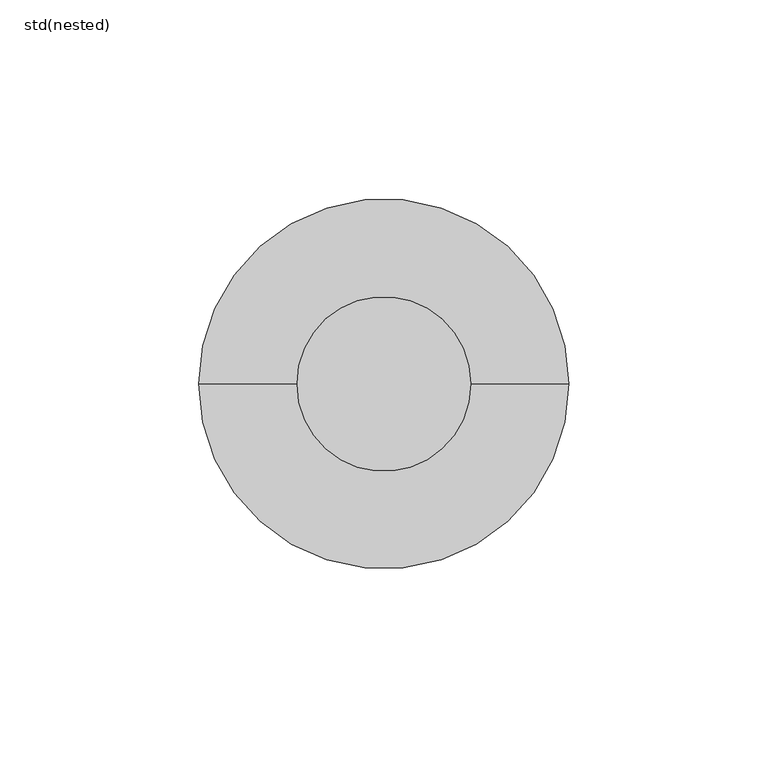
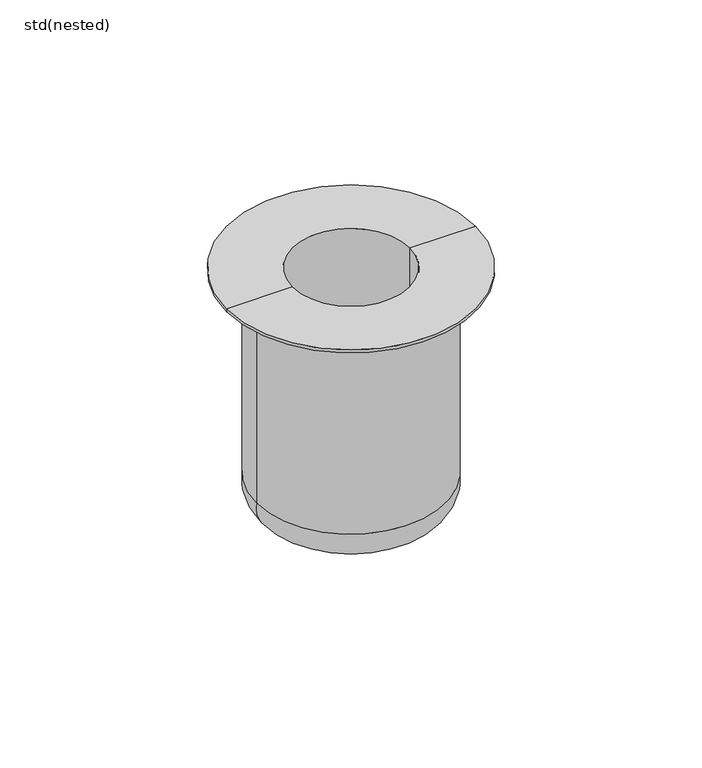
"""IFC4 building model written with IfcOpenShell, lengths in millimetres: sanitary terminal geometry, ZZZ_do_not_use_PF_UN_foul air trap_ACO : std(nested)."""

from ifc_helpers import new_model, si_unit, point, frame, origin, origin_with_axes, place, context, project, spatial, polyline, circle_curve, ellipse_curve, trimmed, source, transform, mapped, element, save
from ifc_brep_helpers import plane_surface, cylinder_surface, revolved_surface, advanced_brep


def std_nested_ef57f552(model_context):
    return source(origin(), model_context, "Body", "AdvancedBrep", [
        advanced_brep(
        [(46.5, 0.0, 0.0), (-46.5, 0.0, 0.0), (-21.9735909, 0.0, 0.0), (21.9735909, 0.0, 0.0), (-30.1394353, 0.0, -92.0), (30.1394353, 0.0, -92.0), (0.0, 0.0, -92.0), (-35.2620423, 0.0, -7.22682), (35.2620423, 0.0, -7.22682), (35.2620423, 0.0, -80.5692755), (-35.2620423, 0.0, -80.5692755), (-32.5551826, 0.0, -7.22682), (32.5551826, 0.0, -7.22682), (-32.5551826, 0.0, -5.2434154), (32.5551826, 0.0, -5.2434154), (-21.9735909, 0.0, -80.5692755), (21.9735909, 0.0, -80.5692755), (-46.5, 0.0, -1.1869593), (46.5, 0.0, -1.1869593)],
        [
            (0, 1, circle_curve(origin_with_axes(), 46.5)),
            (1, 2),
            (2, 3, circle_curve(frame((0.0, 0.0, 0.0), z_axis=(0.0, 0.0, -1.0), x_axis=(1.0, 0.0, 0.0)), 21.9735909)),
            (3, 0),
            (1, 0, circle_curve(origin_with_axes(), 46.5)),
            (3, 2, circle_curve(frame((0.0, 0.0, 0.0), z_axis=(0.0, 0.0, -1.0), x_axis=(1.0, 0.0, 0.0)), 21.9735909)),
            (4, 5, circle_curve(frame((0.0, 0.0, -92.0), z_axis=(0.0, 0.0, -1.0), x_axis=(1.0, 0.0, 0.0)), 30.1394353)),
            (5, 6),
            (6, 4),
            (5, 4, circle_curve(frame((0.0, 0.0, -92.0), z_axis=(0.0, 0.0, -1.0), x_axis=(1.0, 0.0, 0.0)), 30.1394353)),
            (7, 8, circle_curve(frame((0.0, 0.0, -7.22682), z_axis=(0.0, 0.0, -1.0), x_axis=(1.0, 0.0, 0.0)), 35.2620423)),
            (8, 9),
            (9, 10, circle_curve(frame((0.0, 0.0, -80.5692755), z_axis=(0.0, 0.0, 1.0), x_axis=(1.0, 0.0, 0.0)), 35.2620423)),
            (10, 7),
            (8, 7, circle_curve(frame((0.0, 0.0, -7.22682), z_axis=(0.0, 0.0, -1.0), x_axis=(1.0, 0.0, 0.0)), 35.2620423)),
            (10, 9, circle_curve(frame((0.0, 0.0, -80.5692755), z_axis=(0.0, 0.0, 1.0), x_axis=(1.0, 0.0, 0.0)), 35.2620423)),
            (7, 11),
            (11, 12, circle_curve(frame((0.0, 0.0, -7.22682), z_axis=(0.0, 0.0, -1.0), x_axis=(1.0, 0.0, 0.0)), 32.5551826)),
            (12, 8),
            (12, 11, circle_curve(frame((0.0, 0.0, -7.22682), z_axis=(0.0, 0.0, -1.0), x_axis=(1.0, 0.0, 0.0)), 32.5551826)),
            (11, 13),
            (13, 14, circle_curve(frame((0.0, 0.0, -5.2434154), z_axis=(0.0, 0.0, -1.0), x_axis=(1.0, 0.0, 0.0)), 32.5551826)),
            (14, 12),
            (14, 13, circle_curve(frame((0.0, 0.0, -5.2434154), z_axis=(0.0, 0.0, -1.0), x_axis=(1.0, 0.0, 0.0)), 32.5551826)),
            (4, 10, circle_curve(frame((-24.5406931, 0.0, -82.6277648), z_axis=(0.0, 1.0, 0.0), x_axis=(-1.0, 0.0, 0.0)), 10.9171749)),
            (9, 5, circle_curve(frame((24.5406931, 0.0, -82.6277648), z_axis=(0.0, 1.0, 0.0), x_axis=(1.0, 0.0, 0.0)), 10.9171749)),
            (15, 16, circle_curve(frame((0.0, 0.0, -80.5692755), z_axis=(0.0, 0.0, 1.0), x_axis=(1.0, 0.0, 0.0)), 21.9735909)),
            (16, 15, circle_curve(frame((0.0, 0.0, -80.5692755), z_axis=(0.0, 0.0, 1.0), x_axis=(1.0, 0.0, 0.0)), 21.9735909)),
            (15, 2),
            (3, 16),
            (13, 17),
            (17, 18, circle_curve(frame((0.0, 0.0, -1.1869593), z_axis=(0.0, 0.0, -1.0), x_axis=(1.0, 0.0, 0.0)), 46.5)),
            (18, 14),
            (18, 17, circle_curve(frame((0.0, 0.0, -1.1869593), z_axis=(0.0, 0.0, -1.0), x_axis=(1.0, 0.0, 0.0)), 46.5)),
            (0, 18),
            (17, 1),
        ],
        [
            plane_surface(origin_with_axes()),
            plane_surface(frame((0.0, 0.0, -92.0), z_axis=(0.0, 0.0, -1.0), x_axis=(1.0, 0.0, 0.0))),
            cylinder_surface(origin_with_axes(), 35.2620423),
            plane_surface(frame((0.0, 0.0, -7.22682), z_axis=(0.0, 0.0, 1.0), x_axis=(1.0, 0.0, 0.0))),
            cylinder_surface(origin_with_axes(), 32.5551826),
            revolved_surface(trimmed(ellipse_curve(frame((24.5406931, 0.0, -82.6277648), z_axis=(0.0, -1.0, 0.0), x_axis=(1.0, 0.0, 0.0)), 10.9171749, 10.9171749), [point((30.1394353, 0.0, -92.0))], [point((35.2620423, 0.0, -80.5692755))], True, "CARTESIAN"), (0.0, 0.0, 0.0), (0.0, 0.0, 1.0)),
            plane_surface(frame((21.9735909, 0.0, -80.5692755), z_axis=(0.0, 0.0, 1.0), x_axis=(0.0, -1.0, 0.0))),
            revolved_surface(polyline([(21.9735909, 0.0, 0.0), (21.9735909, 0.0, -80.5692755)]), (0.0, 0.0, -80.5692755), (0.0, 0.0, 1.0)),
            revolved_surface(polyline([(32.5551826, 0.0, -5.2434154), (46.5, 0.0, -1.1869593)]), (0.0, 0.0, 0.0), (0.0, 0.0, 1.0)),
            cylinder_surface(origin_with_axes(), 46.5),
        ],
        [
            (0, [[1, 2, 3, 4]]),
            (0, [[5, -4, 6, -2]]),
            (1, [[7, 8, 9]]),
            (1, [[-8, 10, -9]]),
            (2, [[11, 12, 13, 14]]),
            (2, [[-12, 15, -14, 16]]),
            (3, [[-11, 17, 18, 19]]),
            (3, [[-15, -19, 20, -17]]),
            (4, [[-18, 21, 22, 23]]),
            (4, [[-20, -23, 24, -21]]),
            (5, [[-7, 25, -13, 26]]),
            (5, [[-10, -26, -16, -25]]),
            (6, [[27, 28]]),
            (7, [[-27, 29, -6, 30]]),
            (7, [[-28, -30, -3, -29]]),
            (8, [[-22, 31, 32, 33]]),
            (8, [[-24, -33, 34, -31]]),
            (9, [[-1, 35, -32, 36]]),
            (9, [[-5, -36, -34, -35]]),
        ],
    ),
    ])


if __name__ == "__main__":
    model = new_model("IFC4")
    model_context = context("Model", 3, world=origin())
    ifc_project = project(units=[si_unit("LENGTHUNIT", "METRE", prefix="MILLI")], contexts=[model_context])
    site = spatial("IfcSite", under=ifc_project)
    building = spatial("IfcBuilding", under=site)
    placement = place(None, origin())
    std_nested_shape = std_nested_ef57f552(model_context)
    element("IfcSanitaryTerminal", 1, ObjectType="ZZZ_do_not_use_PF_UN_foul air trap_ACO : std(nested)", at=placement, inside=building, context=model_context, shape_type="MappedRepresentation", body=[
        mapped(std_nested_shape, transform((0.0, 0.0, 0.0), x_axis=(1.0, 0.0, 0.0), y_axis=(0.0, 1.0, 0.0), z_axis=(0.0, 0.0, 1.0))),
    ])
    save(model, "model.ifc")
